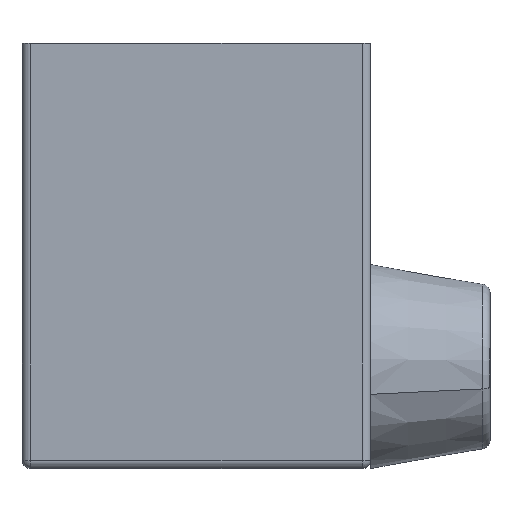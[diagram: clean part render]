
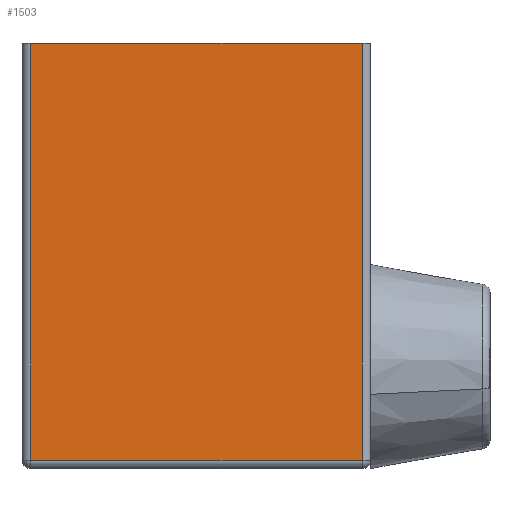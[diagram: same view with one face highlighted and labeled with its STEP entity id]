
A CAD part, left-side view. The second image highlights one B-rep face of the part: STEP entity #1503.
In plain terms, the highlighted planar face has unit normal (-1, 0, 0).
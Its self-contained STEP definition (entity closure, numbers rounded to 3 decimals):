
#55 = CARTESIAN_POINT ( 'NONE',  ( -29.056, 8.091, 18.482 ) ) ;
#146 = DIRECTION ( 'NONE',  ( 0., -1., 0. ) ) ;
#642 = VERTEX_POINT ( 'NONE', #5079 ) ;
#999 = ORIENTED_EDGE ( 'NONE', *, *, #1966, .F. ) ;
#1078 = VECTOR ( 'NONE', #8529, 1000. ) ;
#1107 = AXIS2_PLACEMENT_3D ( 'NONE', #55, #3631, #7705 ) ;
#1213 = EDGE_LOOP ( 'NONE', ( #8779, #1278, #999, #3106 ) ) ;
#1278 = ORIENTED_EDGE ( 'NONE', *, *, #8078, .T. ) ;
#1424 = LINE ( 'NONE', #1471, #4943 ) ;
#1471 = CARTESIAN_POINT ( 'NONE',  ( -29.056, -11.909, 18.482 ) ) ;
#1503 = ADVANCED_FACE ( 'NONE', ( #6990 ), #7751, .F. ) ;
#1645 = CARTESIAN_POINT ( 'NONE',  ( -29.056, 8.091, 18.482 ) ) ;
#1966 = EDGE_CURVE ( 'NONE', #642, #4585, #3766, .T. ) ;
#2257 = CARTESIAN_POINT ( 'NONE',  ( -29.056, -11.909, 18.482 ) ) ;
#2770 = CARTESIAN_POINT ( 'NONE',  ( -29.056, 8.091, -6.018 ) ) ;
#2888 = VECTOR ( 'NONE', #3513, 1000. ) ;
#3106 = ORIENTED_EDGE ( 'NONE', *, *, #4820, .T. ) ;
#3469 = CARTESIAN_POINT ( 'NONE',  ( -29.056, -11.909, -6.018 ) ) ;
#3513 = DIRECTION ( 'NONE',  ( 0., 0., -1. ) ) ;
#3631 = DIRECTION ( 'NONE',  ( 1., 0., 0. ) ) ;
#3663 = LINE ( 'NONE', #2770, #7662 ) ;
#3766 = LINE ( 'NONE', #1645, #1078 ) ;
#3801 = EDGE_CURVE ( 'NONE', #4422, #4330, #3663, .T. ) ;
#4223 = DIRECTION ( 'NONE',  ( 0., 0., 1. ) ) ;
#4330 = VERTEX_POINT ( 'NONE', #3469 ) ;
#4422 = VERTEX_POINT ( 'NONE', #6326 ) ;
#4585 = VERTEX_POINT ( 'NONE', #2257 ) ;
#4820 = EDGE_CURVE ( 'NONE', #642, #4422, #8445, .T. ) ;
#4943 = VECTOR ( 'NONE', #4223, 1000. ) ;
#5079 = CARTESIAN_POINT ( 'NONE',  ( -29.056, 7.591, 18.482 ) ) ;
#6326 = CARTESIAN_POINT ( 'NONE',  ( -29.056, 7.591, -6.018 ) ) ;
#6990 = FACE_OUTER_BOUND ( 'NONE', #1213, .T. ) ;
#7009 = CARTESIAN_POINT ( 'NONE',  ( -29.056, 7.591, 18.482 ) ) ;
#7662 = VECTOR ( 'NONE', #146, 1000. ) ;
#7705 = DIRECTION ( 'NONE',  ( 0., 0., -1. ) ) ;
#7751 = PLANE ( 'NONE',  #1107 ) ;
#8078 = EDGE_CURVE ( 'NONE', #4330, #4585, #1424, .T. ) ;
#8445 = LINE ( 'NONE', #7009, #2888 ) ;
#8529 = DIRECTION ( 'NONE',  ( 0., -1., 0. ) ) ;
#8779 = ORIENTED_EDGE ( 'NONE', *, *, #3801, .T. ) ;
